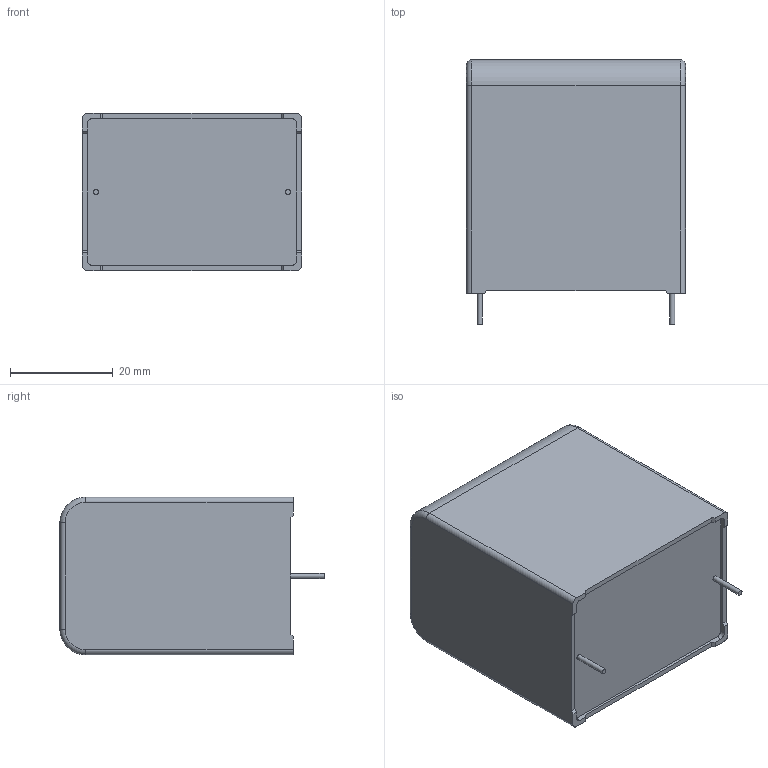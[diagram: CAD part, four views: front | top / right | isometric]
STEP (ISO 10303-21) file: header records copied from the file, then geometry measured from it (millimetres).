
FILE_DESCRIPTION (( 'STEP AP203' ), '1' );
FILE_NAME ('MKP1847H58035+P2.step', '2018-01-17T10:51:45', ( 'work' ), ( 'Hewlett-Packard Company' ), 'SwSTEP 2.0', 'SolidWorks 2017', '' );
FILE_SCHEMA (( 'CONFIG_CONTROL_DESIGN' ));
Length unit declared in the file: millimetre
Products named in the file (1): MKP1847H58035+P2
Bounding box: 42.7 x 51.5 x 30.7 mm (x, y, z)
Volume: 57922.5 mm3; surface area: 9060.4 mm2
Topology: 1 solids, 1 shells, 114 faces, 303 edges, 200 vertices
Faces by surface type: plane 80, bspline 16, cylinder 14, torus 4
Full cylindrical faces by diameter (mm): 1 x2
Entity records: 4252 total; most frequent: CARTESIAN_POINT 1436, ORIENTED_EDGE 598, DIRECTION 497, EDGE_CURVE 299, VECTOR 235, LINE 235, VERTEX_POINT 198, AXIS2_PLACEMENT_3D 131
